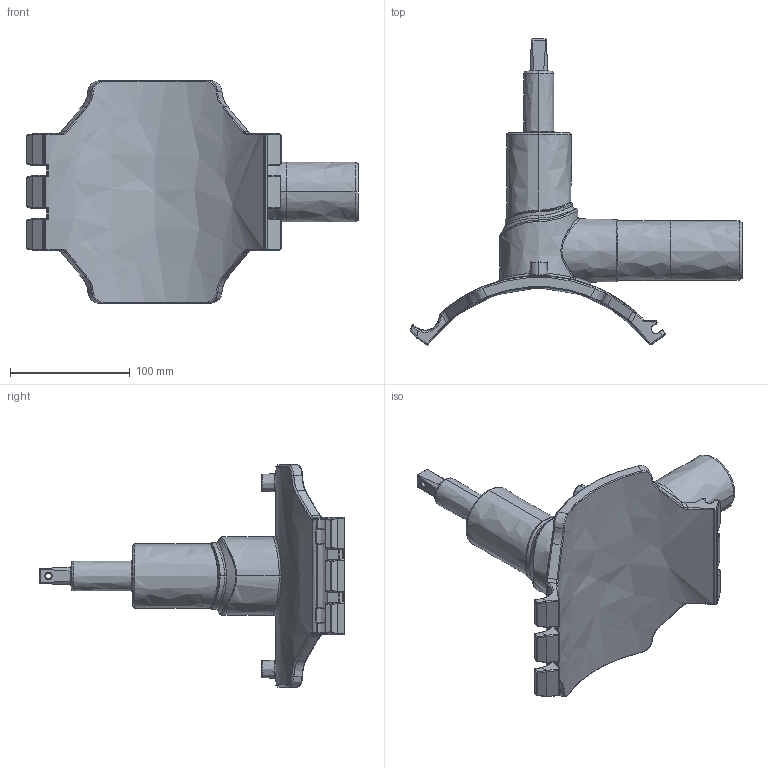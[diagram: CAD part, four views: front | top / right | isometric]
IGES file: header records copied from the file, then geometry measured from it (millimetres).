
Start section:  PTC IGES file: dav2_d225_50_01.igs
Global section: file name: dav2_d225_50_01.igs; native system: Creo Parametric by PTC Inc.; preprocessor: 2019030; author: demmerls; organization: Unknown; date: 20201126.141812; units: millimetre
Bounding box: 277.83 x 256.06 x 186 mm (x, y, z)
Surface area: 140753.4 mm2 (no closed solid volume)
Topology: 0 solids, 0 shells, 575 faces, 2808 edges, 2802 vertices
Faces by surface type: bspline 575
